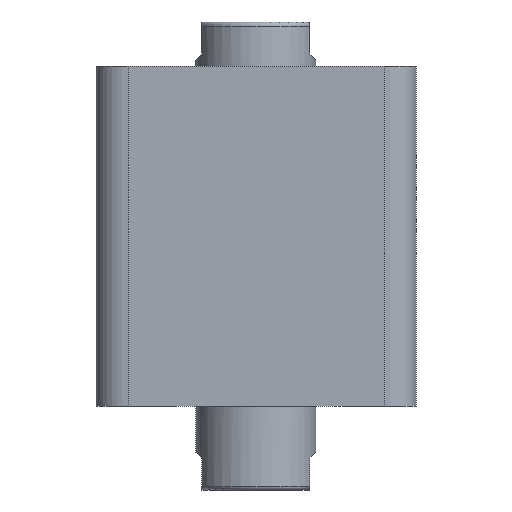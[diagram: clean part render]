
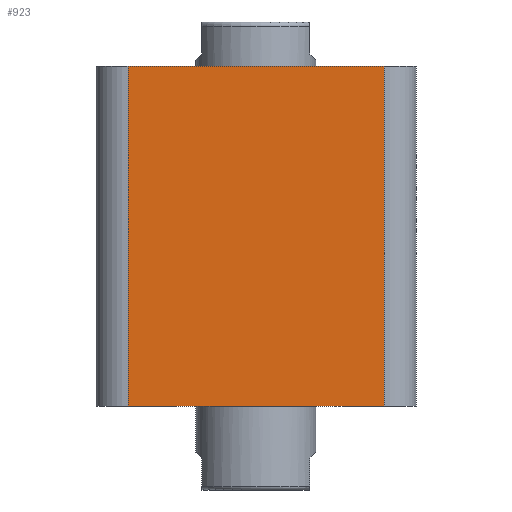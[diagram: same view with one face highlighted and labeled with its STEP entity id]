
A CAD part, front view. The second image highlights one B-rep face of the part: STEP entity #923.
In plain terms, the highlighted planar face has unit normal (0, -1, 0).
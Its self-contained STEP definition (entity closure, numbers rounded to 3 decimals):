
#359 = FACE_OUTER_BOUND ( 'NONE', #1215, .T. ) ;
#479 = VECTOR ( 'NONE', #1846, 1000. ) ;
#483 = LINE ( 'NONE', #1859, #495 ) ;
#487 = LINE ( 'NONE', #1847, #479 ) ;
#495 = VECTOR ( 'NONE', #1854, 1000. ) ;
#623 = AXIS2_PLACEMENT_3D ( 'NONE', #3170, #3174, #3175 ) ;
#923 = ADVANCED_FACE ( 'NONE', ( #359 ), #3172, .F. ) ;
#1047 = LINE ( 'NONE', #2570, #1051 ) ;
#1049 = LINE ( 'NONE', #2592, #1061 ) ;
#1051 = VECTOR ( 'NONE', #2569, 1000. ) ;
#1061 = VECTOR ( 'NONE', #2588, 1000. ) ;
#1215 = EDGE_LOOP ( 'NONE', ( #1302, #1303, #1304, #1305 ) ) ;
#1302 = ORIENTED_EDGE ( 'NONE', *, *, #2052, .F. ) ;
#1303 = ORIENTED_EDGE ( 'NONE', *, *, #2057, .T. ) ;
#1304 = ORIENTED_EDGE ( 'NONE', *, *, #2176, .T. ) ;
#1305 = ORIENTED_EDGE ( 'NONE', *, *, #2168, .T. ) ;
#1846 = DIRECTION ( 'NONE',  ( 1., 0., 0. ) ) ;
#1847 = CARTESIAN_POINT ( 'NONE',  ( -40., -40., 85. ) ) ;
#1854 = DIRECTION ( 'NONE',  ( 0., 0., -1. ) ) ;
#1859 = CARTESIAN_POINT ( 'NONE',  ( -32., -40., 85. ) ) ;
#2052 = EDGE_CURVE ( 'NONE', #2722, #2716, #487, .T. ) ;
#2057 = EDGE_CURVE ( 'NONE', #2722, #2241, #483, .T. ) ;
#2168 = EDGE_CURVE ( 'NONE', #2239, #2716, #1047, .T. ) ;
#2176 = EDGE_CURVE ( 'NONE', #2241, #2239, #1049, .T. ) ;
#2239 = VERTEX_POINT ( 'NONE', #2654 ) ;
#2241 = VERTEX_POINT ( 'NONE', #2659 ) ;
#2263 = CARTESIAN_POINT ( 'NONE',  ( -32., -40., 85. ) ) ;
#2265 = CARTESIAN_POINT ( 'NONE',  ( 32., -40., 85. ) ) ;
#2569 = DIRECTION ( 'NONE',  ( 0., 0., 1. ) ) ;
#2570 = CARTESIAN_POINT ( 'NONE',  ( 32., -40., 85. ) ) ;
#2588 = DIRECTION ( 'NONE',  ( 1., 0., 0. ) ) ;
#2592 = CARTESIAN_POINT ( 'NONE',  ( -40., -40., 0. ) ) ;
#2654 = CARTESIAN_POINT ( 'NONE',  ( 32., -40., 0. ) ) ;
#2659 = CARTESIAN_POINT ( 'NONE',  ( -32., -40., 0. ) ) ;
#2716 = VERTEX_POINT ( 'NONE', #2265 ) ;
#2722 = VERTEX_POINT ( 'NONE', #2263 ) ;
#3170 = CARTESIAN_POINT ( 'NONE',  ( -40., -40., 85. ) ) ;
#3172 = PLANE ( 'NONE',  #623 ) ;
#3174 = DIRECTION ( 'NONE',  ( 0., 1., 0. ) ) ;
#3175 = DIRECTION ( 'NONE',  ( 0., 0., 1. ) ) ;
